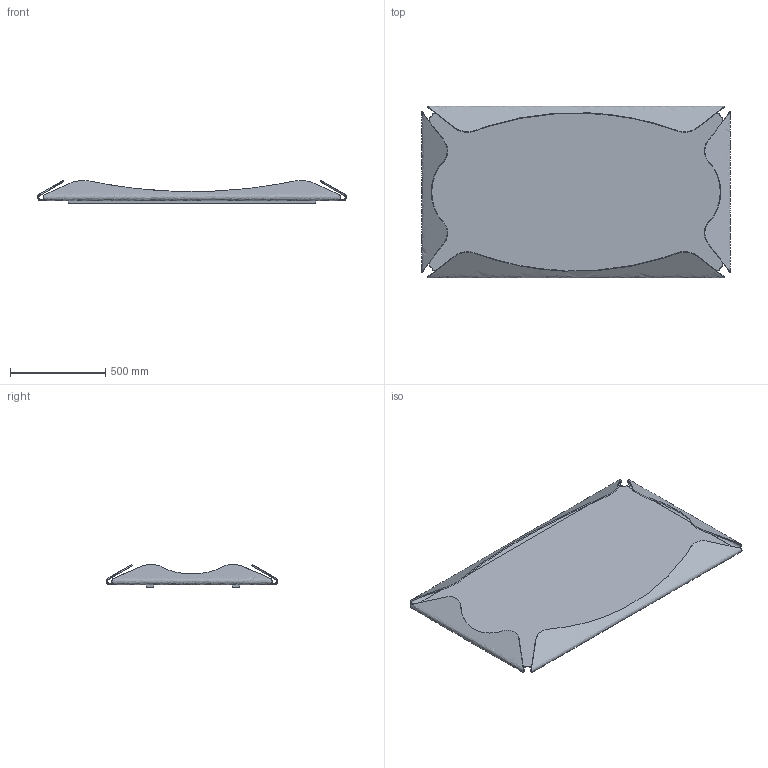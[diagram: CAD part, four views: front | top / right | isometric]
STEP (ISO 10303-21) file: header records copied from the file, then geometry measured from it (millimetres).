
FILE_DESCRIPTION(/* description */ (''),/* implementation_level */ '2;1');
FILE_NAME(/* name */ '380 - Gallery Circle 90x162',/* time_stamp */ '2010-11-02T14:38:17+01:00',/* author */ (''),/* organization */ (''),/* preprocessor_version */ 'ST-DEVELOPER v10',/* originating_system */ '',/* authorisation */ '');
FILE_SCHEMA (('CONFIG_CONTROL_DESIGN'));
Length unit declared in the file: centimetre
Products named in the file (1): 1
Bounding box: 1620 x 900 x 119.76 mm (x, y, z)
Volume: 12764198.9 mm3; surface area: 4877979.8 mm2
Topology: 7 solids, 7 shells, 86 faces, 216 edges, 144 vertices
Faces by surface type: bspline 72, plane 14
Entity records: 4032 total; most frequent: CARTESIAN_POINT 2610, ORIENTED_EDGE 432, EDGE_CURVE 216, B_SPLINE_CURVE_WITH_KNOTS 164, VERTEX_POINT 144, EDGE_LOOP 94, ADVANCED_FACE 86, FACE_OUTER_BOUND 86
